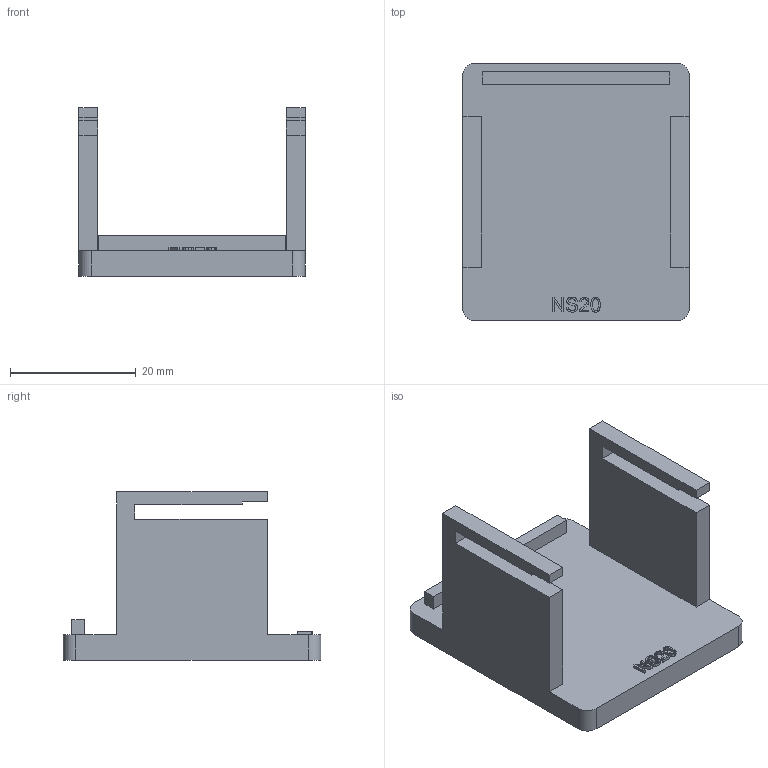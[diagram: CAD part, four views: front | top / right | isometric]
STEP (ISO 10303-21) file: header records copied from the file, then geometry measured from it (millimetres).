
FILE_DESCRIPTION(('Open CASCADE Model'),'2;1');
FILE_NAME('Open CASCADE Shape Model','1970-01-01T00:00:00',('Author'),( 'Open CASCADE'),'Open CASCADE STEP processor 7.8','Open CASCADE 7.8' ,'Unknown');
FILE_SCHEMA(('AUTOMOTIVE_DESIGN { 1 0 10303 214 1 1 1 1 }'));
Length unit declared in the file: millimetre
Products named in the file (2): Open CASCADE STEP translator 7.8 37; NS20D neck storage shoe
Assembly tree (1 placements, depth 2):
  Open CASCADE STEP translator 7.8 37
    NS20D neck storage shoe
Bounding box: 36 x 41 x 26.73 mm (x, y, z)
Volume: 8998.7 mm3; surface area: 6223.9 mm2
Topology: 1 solids, 1 shells, 127 faces, 357 edges, 238 vertices
Faces by surface type: extrusion 71, plane 52, cylinder 4
Entity records: 9876 total; most frequent: CARTESIAN_POINT 3521, DIRECTION 815, ORIENTED_EDGE 714, PCURVE 714, DEFINITIONAL_REPRESENTATION 714, VECTOR 677, LINE 606, B_SPLINE_CURVE_WITH_KNOTS 520
